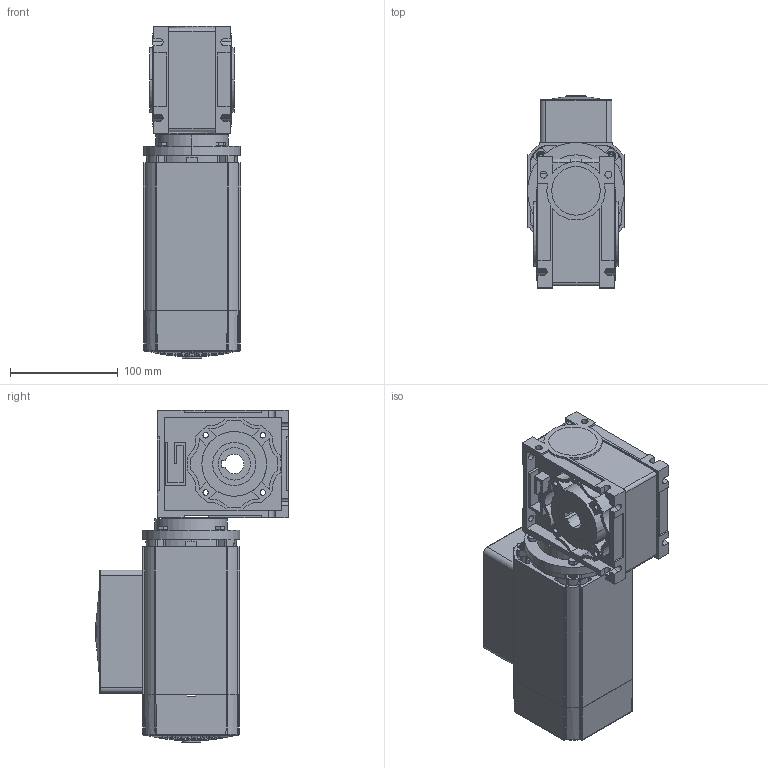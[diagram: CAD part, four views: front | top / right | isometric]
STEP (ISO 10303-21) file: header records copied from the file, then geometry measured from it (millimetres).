
FILE_DESCRIPTION (( 'STEP AP203' ), '1' );
FILE_NAME ('AC8060FC-RA4000T.STEP', '2008-06-30T20:16:48', ( 'eng-rjs' ), ( 'groschopp' ), 'SwSTEP 2.0', 'SolidWorks 2008', '' );
FILE_SCHEMA (( 'CONFIG_CONTROL_DESIGN' ));
Products named in the file (1): AC8060FC-RA4000T
Bounding box: 90.25 x 178.37 x 307.83 mm (x, y, z)
Surface area: 275001.3 mm2 (no closed solid volume)
Topology: 0 solids, 40 shells, 1202 faces, 4002 edges, 2745 vertices
Faces by surface type: plane 739, cylinder 315, bspline 53, cone 53, torus 32, sphere 10
Entity records: 46446 total; most frequent: CARTESIAN_POINT 11555, DIRECTION 7649, ORIENTED_EDGE 6620, EDGE_CURVE 3986, AXIS2_PLACEMENT_3D 2899, VERTEX_POINT 2745, LINE 1851, VECTOR 1851
